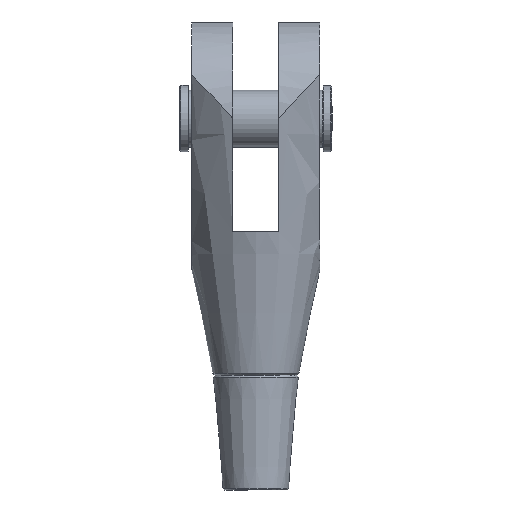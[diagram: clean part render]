
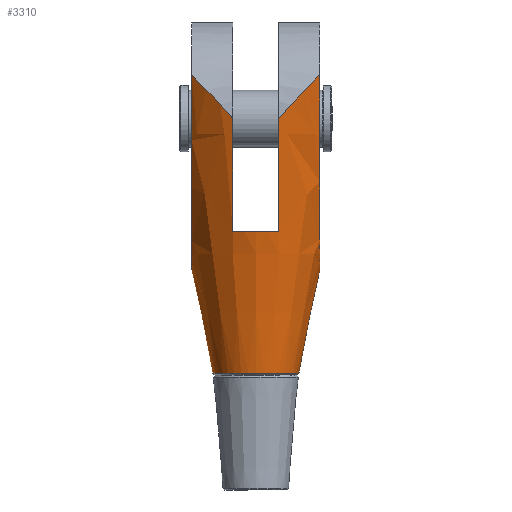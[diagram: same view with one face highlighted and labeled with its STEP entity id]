
A CAD part, front view. The second image highlights one B-rep face of the part: STEP entity #3310.
In plain terms, the highlighted conical face has half-angle 11.5 degrees and reference radius 77.299 mm.
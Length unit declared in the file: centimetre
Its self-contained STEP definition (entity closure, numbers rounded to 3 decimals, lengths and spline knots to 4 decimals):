
#886=B_SPLINE_CURVE_WITH_KNOTS('',3,(#4490,#4491,#4492,#4493,#4494,#4495,
#4496,#4497,#4498,#4499),.UNSPECIFIED.,.F.,.F.,(4,2,2,2,4),(29.9664,
31.3626,33.8393,35.0776,36.1687),
 .UNSPECIFIED.);
#887=B_SPLINE_CURVE_WITH_KNOTS('',3,(#4511,#4512,#4513,#4514,#4515,#4516,
#4517,#4518,#4519,#4520),.UNSPECIFIED.,.F.,.F.,(4,2,2,2,4),(94.6744,
95.7656,97.0039,99.4805,100.8767),
 .UNSPECIFIED.);
#888=B_SPLINE_CURVE_WITH_KNOTS('',3,(#4526,#4527,#4528,#4529,#4530,#4531,
#4532,#4533,#4534,#4535),.UNSPECIFIED.,.F.,.F.,(4,2,2,2,4),(95.388,
96.7842,99.2608,100.4992,101.5903),
 .UNSPECIFIED.);
#889=B_SPLINE_CURVE_WITH_KNOTS('',3,(#4546,#4547,#4548,#4549,#4550,#4551,
#4552,#4553,#4554,#4555),.UNSPECIFIED.,.F.,.F.,(4,2,2,2,4),(29.2529,
30.344,31.5823,34.059,35.4551),
 .UNSPECIFIED.);
#932=(
BOUNDED_CURVE()
B_SPLINE_CURVE(2,(#4486,#4487,#4488),.UNSPECIFIED.,.F.,.F.)
B_SPLINE_CURVE_WITH_KNOTS((3,3),(2.2179,49.989),
 .UNSPECIFIED.)
CURVE()
GEOMETRIC_REPRESENTATION_ITEM()
RATIONAL_B_SPLINE_CURVE((1.064,1.723,1.064))
REPRESENTATION_ITEM('')
);
#933=(
BOUNDED_CURVE()
B_SPLINE_CURVE(2,(#4501,#4502,#4503),.UNSPECIFIED.,.F.,.F.)
B_SPLINE_CURVE_WITH_KNOTS((3,3),(8.426,21.0505),
 .UNSPECIFIED.)
CURVE()
GEOMETRIC_REPRESENTATION_ITEM()
RATIONAL_B_SPLINE_CURVE((1.014,1.017,1.))
REPRESENTATION_ITEM('')
);
#934=(
BOUNDED_CURVE()
B_SPLINE_CURVE(2,(#4507,#4508,#4509),.UNSPECIFIED.,.F.,.F.)
B_SPLINE_CURVE_WITH_KNOTS((3,3),(0.,12.6245),.UNSPECIFIED.)
CURVE()
GEOMETRIC_REPRESENTATION_ITEM()
RATIONAL_B_SPLINE_CURVE((1.,1.017,1.014))
REPRESENTATION_ITEM('')
);
#935=(
BOUNDED_CURVE()
B_SPLINE_CURVE(2,(#4522,#4523,#4524),.UNSPECIFIED.,.F.,.F.)
B_SPLINE_CURVE_WITH_KNOTS((3,3),(2.2179,49.989),
 .UNSPECIFIED.)
CURVE()
GEOMETRIC_REPRESENTATION_ITEM()
RATIONAL_B_SPLINE_CURVE((1.064,1.723,1.064))
REPRESENTATION_ITEM('')
);
#936=(
BOUNDED_CURVE()
B_SPLINE_CURVE(2,(#4537,#4538,#4539),.UNSPECIFIED.,.F.,.F.)
B_SPLINE_CURVE_WITH_KNOTS((3,3),(8.426,21.0505),
 .UNSPECIFIED.)
CURVE()
GEOMETRIC_REPRESENTATION_ITEM()
RATIONAL_B_SPLINE_CURVE((1.014,1.017,1.))
REPRESENTATION_ITEM('')
);
#937=(
BOUNDED_CURVE()
B_SPLINE_CURVE(2,(#4543,#4544,#4545),.UNSPECIFIED.,.F.,.F.)
B_SPLINE_CURVE_WITH_KNOTS((3,3),(0.,12.6245),.UNSPECIFIED.)
CURVE()
GEOMETRIC_REPRESENTATION_ITEM()
RATIONAL_B_SPLINE_CURVE((1.,1.017,1.014))
REPRESENTATION_ITEM('')
);
#945=FACE_BOUND('',#1177,.T.);
#989=FACE_OUTER_BOUND('',#1176,.T.);
#1176=EDGE_LOOP('',(#2210,#2211,#2212,#2213,#2214,#2215,#2216,#2217,#2218,
#2219,#2220,#2221));
#1177=EDGE_LOOP('',(#2222));
#1405=CIRCLE('',#3502,4.2399);
#1406=CIRCLE('',#3504,7.0687);
#1407=CIRCLE('',#3505,7.0687);
#1449=VERTEX_POINT('',#4481);
#1450=VERTEX_POINT('',#4484);
#1451=VERTEX_POINT('',#4485);
#1452=VERTEX_POINT('',#4489);
#1453=VERTEX_POINT('',#4500);
#1454=VERTEX_POINT('',#4504);
#1455=VERTEX_POINT('',#4506);
#1456=VERTEX_POINT('',#4510);
#1457=VERTEX_POINT('',#4521);
#1458=VERTEX_POINT('',#4525);
#1459=VERTEX_POINT('',#4536);
#1460=VERTEX_POINT('',#4540);
#1461=VERTEX_POINT('',#4542);
#1759=EDGE_CURVE('',#1449,#1449,#1405,.T.);
#1760=EDGE_CURVE('',#1450,#1451,#932,.T.);
#1761=EDGE_CURVE('',#1451,#1452,#886,.T.);
#1762=EDGE_CURVE('',#1452,#1453,#933,.T.);
#1763=EDGE_CURVE('',#1453,#1454,#1406,.T.);
#1764=EDGE_CURVE('',#1454,#1455,#934,.T.);
#1765=EDGE_CURVE('',#1455,#1456,#887,.T.);
#1766=EDGE_CURVE('',#1456,#1457,#935,.T.);
#1767=EDGE_CURVE('',#1457,#1458,#888,.T.);
#1768=EDGE_CURVE('',#1458,#1459,#936,.T.);
#1769=EDGE_CURVE('',#1459,#1460,#1407,.T.);
#1770=EDGE_CURVE('',#1460,#1461,#937,.T.);
#1771=EDGE_CURVE('',#1461,#1450,#889,.T.);
#2210=ORIENTED_EDGE('',*,*,#1760,.T.);
#2211=ORIENTED_EDGE('',*,*,#1761,.T.);
#2212=ORIENTED_EDGE('',*,*,#1762,.T.);
#2213=ORIENTED_EDGE('',*,*,#1763,.T.);
#2214=ORIENTED_EDGE('',*,*,#1764,.T.);
#2215=ORIENTED_EDGE('',*,*,#1765,.T.);
#2216=ORIENTED_EDGE('',*,*,#1766,.T.);
#2217=ORIENTED_EDGE('',*,*,#1767,.T.);
#2218=ORIENTED_EDGE('',*,*,#1768,.T.);
#2219=ORIENTED_EDGE('',*,*,#1769,.T.);
#2220=ORIENTED_EDGE('',*,*,#1770,.T.);
#2221=ORIENTED_EDGE('',*,*,#1771,.T.);
#2222=ORIENTED_EDGE('',*,*,#1759,.F.);
#3109=CONICAL_SURFACE('',#3503,7.7299,11.5);
#3310=ADVANCED_FACE('',(#989,#945),#3109,.T.);
#3502=AXIS2_PLACEMENT_3D('',#4482,#3715,#3716);
#3503=AXIS2_PLACEMENT_3D('',#4483,#3717,#3718);
#3504=AXIS2_PLACEMENT_3D('',#4505,#3719,#3720);
#3505=AXIS2_PLACEMENT_3D('',#4541,#3721,#3722);
#3715=DIRECTION('center_axis',(0.,0.,
-1.));
#3716=DIRECTION('ref_axis',(0.,-1.,0.));
#3717=DIRECTION('center_axis',(0.,0.,
1.));
#3718=DIRECTION('ref_axis',(0.,1.,0.));
#3719=DIRECTION('center_axis',(0.,0.,
-1.));
#3720=DIRECTION('ref_axis',(0.,1.,0.));
#3721=DIRECTION('center_axis',(0.,0.,
-1.));
#3722=DIRECTION('ref_axis',(0.,1.,0.));
#4481=CARTESIAN_POINT('',(0.,4.2399,-25.004));
#4482=CARTESIAN_POINT('Origin',(0.,0.,
-25.004));
#4483=CARTESIAN_POINT('Origin',(0.,0.,
-7.85));
#4484=CARTESIAN_POINT('',(6.3,8.0254,4.3048));
#4485=CARTESIAN_POINT('',(6.3,-8.0254,4.3048));
#4486=CARTESIAN_POINT('Ctrl Pts',(6.3,8.0254,4.3048));
#4487=CARTESIAN_POINT('Ctrl Pts',(6.3,0.,
-26.7232));
#4488=CARTESIAN_POINT('Ctrl Pts',(6.3,-8.0254,4.3048));
#4489=CARTESIAN_POINT('',(2.25,-9.0515,0.));
#4490=CARTESIAN_POINT('Ctrl Pts',(6.3,-8.0254,4.3048));
#4491=CARTESIAN_POINT('Ctrl Pts',(5.9899,-8.1864,3.9862));
#4492=CARTESIAN_POINT('Ctrl Pts',(5.6732,-8.3286,3.6603));
#4493=CARTESIAN_POINT('Ctrl Pts',(4.7901,-8.6684,2.7482));
#4494=CARTESIAN_POINT('Ctrl Pts',(4.2199,-8.8233,2.1558));
#4495=CARTESIAN_POINT('Ctrl Pts',(3.4051,-8.9685,1.2897));
#4496=CARTESIAN_POINT('Ctrl Pts',(3.1417,-9.0025,1.0062));
#4497=CARTESIAN_POINT('Ctrl Pts',(2.6666,-9.0426,0.4818));
#4498=CARTESIAN_POINT('Ctrl Pts',(2.4524,-9.0515,0.24));
#4499=CARTESIAN_POINT('Ctrl Pts',(2.25,-9.0515,0.));
#4500=CARTESIAN_POINT('',(2.25,-6.701,-11.1));
#4501=CARTESIAN_POINT('Ctrl Pts',(2.25,-9.0515,0.));
#4502=CARTESIAN_POINT('Ctrl Pts',(2.25,-7.7144,-6.3781));
#4503=CARTESIAN_POINT('Ctrl Pts',(2.25,-6.701,-11.1));
#4504=CARTESIAN_POINT('',(-2.25,-6.701,-11.1));
#4505=CARTESIAN_POINT('Origin',(0.,0.,
-11.1));
#4506=CARTESIAN_POINT('',(-2.25,-9.0515,0.));
#4507=CARTESIAN_POINT('Ctrl Pts',(-2.25,-6.701,-11.1));
#4508=CARTESIAN_POINT('Ctrl Pts',(-2.25,-7.7144,-6.3781));
#4509=CARTESIAN_POINT('Ctrl Pts',(-2.25,-9.0515,0.));
#4510=CARTESIAN_POINT('',(-6.3,-8.0254,4.3048));
#4511=CARTESIAN_POINT('Ctrl Pts',(-2.25,-9.0515,0.));
#4512=CARTESIAN_POINT('Ctrl Pts',(-2.4524,-9.0515,0.24));
#4513=CARTESIAN_POINT('Ctrl Pts',(-2.6666,-9.0426,0.4818));
#4514=CARTESIAN_POINT('Ctrl Pts',(-3.1417,-9.0025,1.0062));
#4515=CARTESIAN_POINT('Ctrl Pts',(-3.4051,-8.9685,1.2897));
#4516=CARTESIAN_POINT('Ctrl Pts',(-4.2199,-8.8233,2.1558));
#4517=CARTESIAN_POINT('Ctrl Pts',(-4.7901,-8.6684,2.7482));
#4518=CARTESIAN_POINT('Ctrl Pts',(-5.6732,-8.3286,3.6603));
#4519=CARTESIAN_POINT('Ctrl Pts',(-5.9899,-8.1864,3.9862));
#4520=CARTESIAN_POINT('Ctrl Pts',(-6.3,-8.0254,4.3048));
#4521=CARTESIAN_POINT('',(-6.3,8.0254,4.3048));
#4522=CARTESIAN_POINT('Ctrl Pts',(-6.3,-8.0254,4.3048));
#4523=CARTESIAN_POINT('Ctrl Pts',(-6.3,0.,
-26.7232));
#4524=CARTESIAN_POINT('Ctrl Pts',(-6.3,8.0254,4.3048));
#4525=CARTESIAN_POINT('',(-2.25,9.0515,0.));
#4526=CARTESIAN_POINT('Ctrl Pts',(-6.3,8.0254,4.3048));
#4527=CARTESIAN_POINT('Ctrl Pts',(-5.9899,8.1864,3.9862));
#4528=CARTESIAN_POINT('Ctrl Pts',(-5.6732,8.3286,3.6603));
#4529=CARTESIAN_POINT('Ctrl Pts',(-4.7901,8.6684,2.7482));
#4530=CARTESIAN_POINT('Ctrl Pts',(-4.2199,8.8233,2.1558));
#4531=CARTESIAN_POINT('Ctrl Pts',(-3.4051,8.9685,1.2897));
#4532=CARTESIAN_POINT('Ctrl Pts',(-3.1417,9.0025,1.0062));
#4533=CARTESIAN_POINT('Ctrl Pts',(-2.6666,9.0426,0.4818));
#4534=CARTESIAN_POINT('Ctrl Pts',(-2.4524,9.0515,0.24));
#4535=CARTESIAN_POINT('Ctrl Pts',(-2.25,9.0515,0.));
#4536=CARTESIAN_POINT('',(-2.25,6.701,-11.1));
#4537=CARTESIAN_POINT('Ctrl Pts',(-2.25,9.0515,0.));
#4538=CARTESIAN_POINT('Ctrl Pts',(-2.25,7.7144,-6.3781));
#4539=CARTESIAN_POINT('Ctrl Pts',(-2.25,6.701,-11.1));
#4540=CARTESIAN_POINT('',(2.25,6.701,-11.1));
#4541=CARTESIAN_POINT('Origin',(0.,0.,
-11.1));
#4542=CARTESIAN_POINT('',(2.25,9.0515,0.));
#4543=CARTESIAN_POINT('Ctrl Pts',(2.25,6.701,-11.1));
#4544=CARTESIAN_POINT('Ctrl Pts',(2.25,7.7144,-6.3781));
#4545=CARTESIAN_POINT('Ctrl Pts',(2.25,9.0515,0.));
#4546=CARTESIAN_POINT('Ctrl Pts',(2.25,9.0515,0.));
#4547=CARTESIAN_POINT('Ctrl Pts',(2.4524,9.0515,0.24));
#4548=CARTESIAN_POINT('Ctrl Pts',(2.6666,9.0426,0.4818));
#4549=CARTESIAN_POINT('Ctrl Pts',(3.1417,9.0025,1.0062));
#4550=CARTESIAN_POINT('Ctrl Pts',(3.4051,8.9685,1.2897));
#4551=CARTESIAN_POINT('Ctrl Pts',(4.2199,8.8233,2.1558));
#4552=CARTESIAN_POINT('Ctrl Pts',(4.7901,8.6684,2.7482));
#4553=CARTESIAN_POINT('Ctrl Pts',(5.6732,8.3286,3.6603));
#4554=CARTESIAN_POINT('Ctrl Pts',(5.9899,8.1864,3.9862));
#4555=CARTESIAN_POINT('Ctrl Pts',(6.3,8.0254,4.3048));
